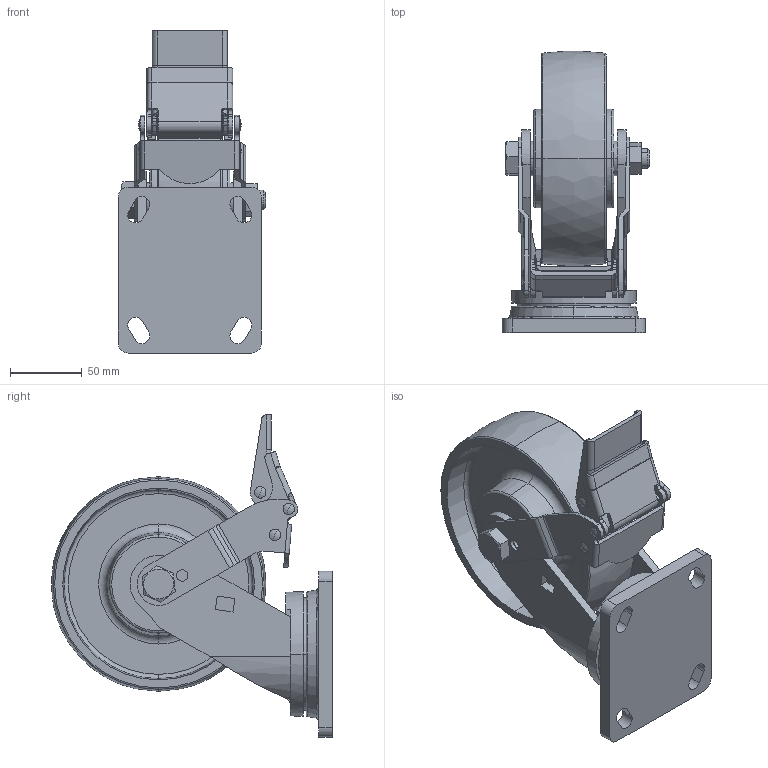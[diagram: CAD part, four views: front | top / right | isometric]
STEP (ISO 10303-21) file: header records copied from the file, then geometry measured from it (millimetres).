
FILE_DESCRIPTION((''),'2;1');
FILE_NAME('78126E-786-96_ASM','2020-07-08T',('lenovo'),(''),'PRO/ENGINEER BY PARAMETRIC TECHNOLOGY CORPORATION, 2010280','PRO/ENGINEER BY PARAMETRIC TECHNOLOGY CORPORATION, 2010280','');
FILE_SCHEMA(('CONFIG_CONTROL_DESIGN'));
Length unit declared in the file: millimetre
Products named in the file (15): PRODUCT_21335; PRT0117; PRT0118; PRODUCT_26291; PRT0119; PRT0120; PRT0121; PRT0122; PRODUCT_72823; PRT0123; PRT0124; 780F-33-; 78126E-786-96__________ASM_ASM; 78126E-786-96__ASM_ASM; 78126E-786-96_ASM
Assembly tree (18 placements, depth 4):
  78126E-786-96_ASM
    78126E-786-96__ASM_ASM
      78126E-786-96__________ASM_ASM
        PRODUCT_21335  x5
        PRT0117
        PRT0118
        PRODUCT_26291
        PRT0119
        PRT0120
        PRT0121
        PRT0122
        PRODUCT_72823
        PRT0123
        PRT0124
        780F-33-
Bounding box: 103 x 196.35 x 225.17 mm (x, y, z)
Volume: 781482.2 mm3; surface area: 203247.5 mm2
Topology: 16 solids, 16 shells, 410 faces, 1064 edges, 697 vertices
Faces by surface type: cylinder 168, plane 164, torus 36, cone 18, sphere 12, bspline 12
Entity records: 13514 total; most frequent: CARTESIAN_POINT 3057, DIRECTION 2302, ORIENTED_EDGE 2048, EDGE_CURVE 1024, AXIS2_PLACEMENT_3D 894, VERTEX_POINT 669, VECTOR 514, LINE 514
